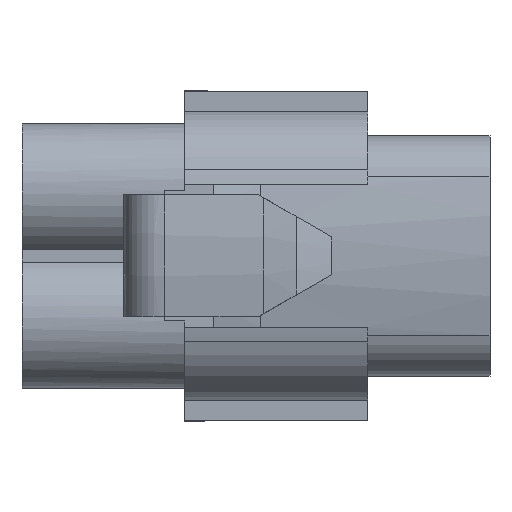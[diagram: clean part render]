
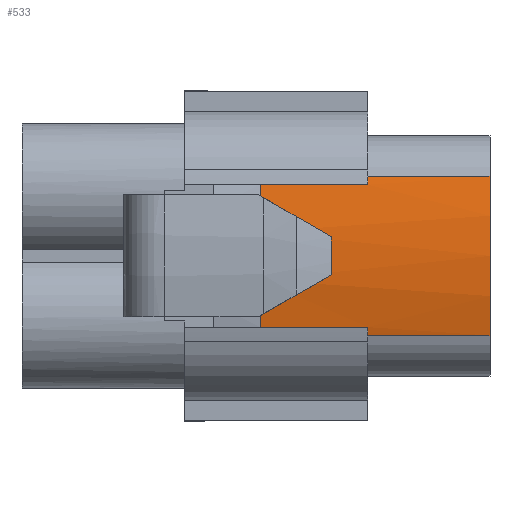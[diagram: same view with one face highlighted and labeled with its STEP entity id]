
A CAD part, top view. The second image highlights one B-rep face of the part: STEP entity #533.
In plain terms, the highlighted cylindrical face has radius 14.8 mm (diameter 29.6 mm), a partial arc.
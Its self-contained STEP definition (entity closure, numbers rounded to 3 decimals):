
#452=AXIS2_PLACEMENT_3D('Circle Axis2P3D',#450,#451,$) ;
#474=AXIS2_PLACEMENT_3D('Cylinder Axis2P3D',#471,#472,#473) ;
#478=AXIS2_PLACEMENT_3D('Circle Axis2P3D',#476,#477,$) ;
#499=AXIS2_PLACEMENT_3D('Circle Axis2P3D',#497,#498,$) ;
#513=AXIS2_PLACEMENT_3D('Circle Axis2P3D',#511,#512,$) ;
#447=CARTESIAN_POINT('Vertex',(-11.3,-0.05,2.73)) ;
#450=CARTESIAN_POINT('Axis2P3D Location',(-11.3,3.45,-11.65)) ;
#454=CARTESIAN_POINT('Vertex',(-11.3,6.95,2.73)) ;
#471=CARTESIAN_POINT('Axis2P3D Location',(-6.26,3.45,-11.65)) ;
#476=CARTESIAN_POINT('Axis2P3D Location',(-6.,3.45,-11.65)) ;
#480=CARTESIAN_POINT('Vertex',(-6.,7.364,2.623)) ;
#482=CARTESIAN_POINT('Vertex',(-6.,6.95,2.73)) ;
#485=CARTESIAN_POINT('Line Origine',(-6.26,6.95,2.73)) ;
#490=CARTESIAN_POINT('Line Origine',(-6.26,-0.05,2.73)) ;
#494=CARTESIAN_POINT('Vertex',(-6.,-0.05,2.73)) ;
#497=CARTESIAN_POINT('Axis2P3D Location',(-6.,3.45,-11.65)) ;
#501=CARTESIAN_POINT('Vertex',(-6.,-0.464,2.623)) ;
#504=CARTESIAN_POINT('Line Origine',(-6.26,-0.464,2.623)) ;
#508=CARTESIAN_POINT('Vertex',(0.,-0.464,2.623)) ;
#511=CARTESIAN_POINT('Axis2P3D Location',(0.,3.45,-11.65)) ;
#515=CARTESIAN_POINT('Vertex',(0.,7.364,2.623)) ;
#518=CARTESIAN_POINT('Line Origine',(-6.26,7.364,2.623)) ;
#451=DIRECTION('Axis2P3D Direction',(-1.,-0.,0.)) ;
#472=DIRECTION('Axis2P3D Direction',(1.,0.,0.)) ;
#473=DIRECTION('Axis2P3D XDirection',(0.,0.264,0.964)) ;
#477=DIRECTION('Axis2P3D Direction',(1.,0.,0.)) ;
#486=DIRECTION('Vector Direction',(1.,0.,0.)) ;
#491=DIRECTION('Vector Direction',(1.,0.,0.)) ;
#498=DIRECTION('Axis2P3D Direction',(1.,0.,0.)) ;
#505=DIRECTION('Vector Direction',(1.,0.,0.)) ;
#512=DIRECTION('Axis2P3D Direction',(1.,0.,0.)) ;
#519=DIRECTION('Vector Direction',(1.,0.,0.)) ;
#487=VECTOR('Line Direction',#486,1.) ;
#492=VECTOR('Line Direction',#491,1.) ;
#506=VECTOR('Line Direction',#505,1.) ;
#520=VECTOR('Line Direction',#519,1.) ;
#524=ORIENTED_EDGE('',*,*,#484,.T.) ;
#525=ORIENTED_EDGE('',*,*,#489,.T.) ;
#526=ORIENTED_EDGE('',*,*,#456,.T.) ;
#527=ORIENTED_EDGE('',*,*,#496,.F.) ;
#528=ORIENTED_EDGE('',*,*,#503,.T.) ;
#529=ORIENTED_EDGE('',*,*,#510,.F.) ;
#530=ORIENTED_EDGE('',*,*,#517,.F.) ;
#531=ORIENTED_EDGE('',*,*,#522,.T.) ;
#533=ADVANCED_FACE('\X2\FF8AFF9FFF70FF82\X0\ \X2\FF8EFF9EFF83FF9EFF68FF70\X0\',(#532),#475,.T.) ;
#453=CIRCLE('generated circle',#452,14.8) ;
#479=CIRCLE('generated circle',#478,14.8) ;
#500=CIRCLE('generated circle',#499,14.8) ;
#514=CIRCLE('generated circle',#513,14.8) ;
#475=CYLINDRICAL_SURFACE('generated cylinder',#474,14.8) ;
#456=EDGE_CURVE('',#455,#448,#453,.F.) ;
#484=EDGE_CURVE('',#481,#483,#479,.T.) ;
#489=EDGE_CURVE('',#483,#455,#488,.F.) ;
#496=EDGE_CURVE('',#495,#448,#493,.F.) ;
#503=EDGE_CURVE('',#495,#502,#500,.T.) ;
#510=EDGE_CURVE('',#509,#502,#507,.F.) ;
#517=EDGE_CURVE('',#516,#509,#514,.T.) ;
#522=EDGE_CURVE('',#516,#481,#521,.F.) ;
#523=EDGE_LOOP('',(#524,#525,#526,#527,#528,#529,#530,#531)) ;
#532=FACE_OUTER_BOUND('',#523,.T.) ;
#488=LINE('Line',#485,#487) ;
#493=LINE('Line',#490,#492) ;
#507=LINE('Line',#504,#506) ;
#521=LINE('Line',#518,#520) ;
#448=VERTEX_POINT('',#447) ;
#455=VERTEX_POINT('',#454) ;
#481=VERTEX_POINT('',#480) ;
#483=VERTEX_POINT('',#482) ;
#495=VERTEX_POINT('',#494) ;
#502=VERTEX_POINT('',#501) ;
#509=VERTEX_POINT('',#508) ;
#516=VERTEX_POINT('',#515) ;
